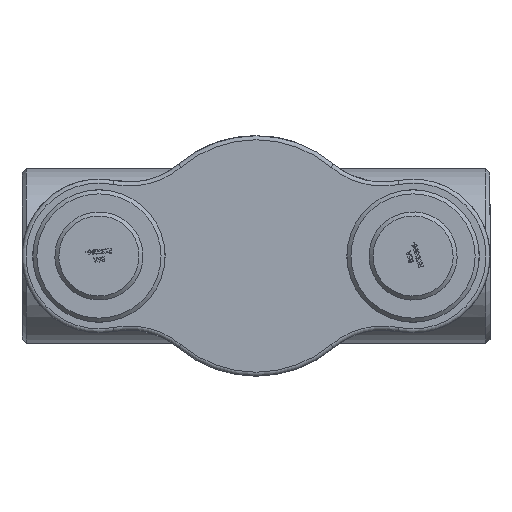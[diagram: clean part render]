
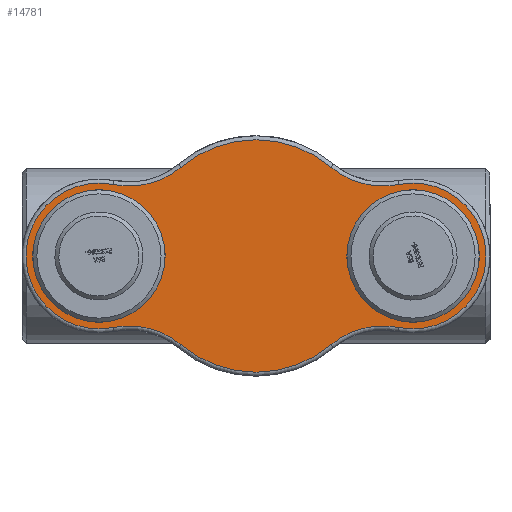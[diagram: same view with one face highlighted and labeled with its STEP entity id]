
A CAD part, front view. The second image highlights one B-rep face of the part: STEP entity #14781.
In plain terms, the highlighted planar face has unit normal (0, -1, 0) as drawn and (0, 0, -1) by its records, which use the part's own axes.
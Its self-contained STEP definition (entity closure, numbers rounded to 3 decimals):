
#3875=PLANE('',#15741);
#4228=FACE_BOUND('',#5207,.T.);
#4229=FACE_BOUND('',#5208,.T.);
#4335=FACE_OUTER_BOUND('',#5206,.T.);
#5206=EDGE_LOOP('',(#10176,#10177,#10178,#10179,#10180,#10181,#10182,#10183));
#5207=EDGE_LOOP('',(#10184));
#5208=EDGE_LOOP('',(#10185));
#6182=CIRCLE('',#15740,62.5);
#6183=CIRCLE('',#15742,91.);
#6184=CIRCLE('',#15743,101.);
#6185=CIRCLE('',#15744,145.);
#6186=CIRCLE('',#15745,101.);
#6187=CIRCLE('',#15746,91.);
#6188=CIRCLE('',#15747,101.);
#6189=CIRCLE('',#15748,145.);
#6190=CIRCLE('',#15749,101.);
#6191=CIRCLE('',#15750,62.5);
#6354=VERTEX_POINT('',#18903);
#6355=VERTEX_POINT('',#18906);
#6356=VERTEX_POINT('',#18907);
#6357=VERTEX_POINT('',#18909);
#6358=VERTEX_POINT('',#18911);
#6359=VERTEX_POINT('',#18913);
#6360=VERTEX_POINT('',#18915);
#6361=VERTEX_POINT('',#18917);
#6362=VERTEX_POINT('',#18919);
#6363=VERTEX_POINT('',#18922);
#7882=EDGE_CURVE('',#6354,#6354,#6182,.T.);
#7883=EDGE_CURVE('',#6355,#6356,#6183,.T.);
#7884=EDGE_CURVE('',#6357,#6355,#6184,.T.);
#7885=EDGE_CURVE('',#6358,#6357,#6185,.T.);
#7886=EDGE_CURVE('',#6359,#6358,#6186,.T.);
#7887=EDGE_CURVE('',#6360,#6359,#6187,.T.);
#7888=EDGE_CURVE('',#6361,#6360,#6188,.T.);
#7889=EDGE_CURVE('',#6362,#6361,#6189,.T.);
#7890=EDGE_CURVE('',#6356,#6362,#6190,.T.);
#7891=EDGE_CURVE('',#6363,#6363,#6191,.T.);
#10176=ORIENTED_EDGE('',*,*,#7883,.F.);
#10177=ORIENTED_EDGE('',*,*,#7884,.F.);
#10178=ORIENTED_EDGE('',*,*,#7885,.F.);
#10179=ORIENTED_EDGE('',*,*,#7886,.F.);
#10180=ORIENTED_EDGE('',*,*,#7887,.F.);
#10181=ORIENTED_EDGE('',*,*,#7888,.F.);
#10182=ORIENTED_EDGE('',*,*,#7889,.F.);
#10183=ORIENTED_EDGE('',*,*,#7890,.F.);
#10184=ORIENTED_EDGE('',*,*,#7891,.F.);
#10185=ORIENTED_EDGE('',*,*,#7882,.F.);
#14781=ADVANCED_FACE('',(#4335,#4228,#4229),#3875,.F.);
#15740=AXIS2_PLACEMENT_3D('',#18904,#16399,#16400);
#15741=AXIS2_PLACEMENT_3D('',#18905,#16401,#16402);
#15742=AXIS2_PLACEMENT_3D('',#18908,#16403,#16404);
#15743=AXIS2_PLACEMENT_3D('',#18910,#16405,#16406);
#15744=AXIS2_PLACEMENT_3D('',#18912,#16407,#16408);
#15745=AXIS2_PLACEMENT_3D('',#18914,#16409,#16410);
#15746=AXIS2_PLACEMENT_3D('',#18916,#16411,#16412);
#15747=AXIS2_PLACEMENT_3D('',#18918,#16413,#16414);
#15748=AXIS2_PLACEMENT_3D('',#18920,#16415,#16416);
#15749=AXIS2_PLACEMENT_3D('',#18921,#16417,#16418);
#15750=AXIS2_PLACEMENT_3D('',#18923,#16419,#16420);
#16399=DIRECTION('center_axis',(0.,0.,-1.));
#16400=DIRECTION('ref_axis',(1.,0.,0.));
#16401=DIRECTION('center_axis',(0.,0.,1.));
#16402=DIRECTION('ref_axis',(1.,0.,0.));
#16403=DIRECTION('center_axis',(0.,0.,1.));
#16404=DIRECTION('ref_axis',(-1.,0.,0.));
#16405=DIRECTION('center_axis',(0.,0.,-1.));
#16406=DIRECTION('ref_axis',(0.248,-0.969,0.));
#16407=DIRECTION('center_axis',(0.,0.,1.));
#16408=DIRECTION('ref_axis',(0.,1.,0.));
#16409=DIRECTION('center_axis',(0.,0.,-1.));
#16410=DIRECTION('ref_axis',(-0.248,-0.969,0.));
#16411=DIRECTION('center_axis',(0.,0.,1.));
#16412=DIRECTION('ref_axis',(1.,0.,0.));
#16413=DIRECTION('center_axis',(0.,0.,-1.));
#16414=DIRECTION('ref_axis',(-0.248,0.969,0.));
#16415=DIRECTION('center_axis',(0.,0.,1.));
#16416=DIRECTION('ref_axis',(0.,-1.,0.));
#16417=DIRECTION('center_axis',(0.,0.,-1.));
#16418=DIRECTION('ref_axis',(0.248,0.969,0.));
#16419=DIRECTION('center_axis',(0.,0.,-1.));
#16420=DIRECTION('ref_axis',(1.,0.,0.));
#18903=CARTESIAN_POINT('',(133.5,0.,0.));
#18904=CARTESIAN_POINT('Origin',(196.,0.,0.));
#18905=CARTESIAN_POINT('Origin',(0.,0.,
0.));
#18906=CARTESIAN_POINT('',(-178.149,89.232,0.));
#18907=CARTESIAN_POINT('',(-178.149,-89.232,0.));
#18908=CARTESIAN_POINT('Origin',(-196.,0.,0.));
#18909=CARTESIAN_POINT('',(-93.329,110.972,0.));
#18910=CARTESIAN_POINT('Origin',(-158.337,188.27,0.));
#18911=CARTESIAN_POINT('',(93.329,110.972,0.));
#18912=CARTESIAN_POINT('Origin',(0.,0.,0.));
#18913=CARTESIAN_POINT('',(178.149,89.232,0.));
#18914=CARTESIAN_POINT('Origin',(158.337,188.27,0.));
#18915=CARTESIAN_POINT('',(178.149,-89.232,0.));
#18916=CARTESIAN_POINT('Origin',(196.,0.,0.));
#18917=CARTESIAN_POINT('',(93.329,-110.972,0.));
#18918=CARTESIAN_POINT('Origin',(158.337,-188.27,0.));
#18919=CARTESIAN_POINT('',(-93.329,-110.972,0.));
#18920=CARTESIAN_POINT('Origin',(0.,0.,0.));
#18921=CARTESIAN_POINT('Origin',(-158.337,-188.27,0.));
#18922=CARTESIAN_POINT('',(-258.5,0.,0.));
#18923=CARTESIAN_POINT('Origin',(-196.,0.,0.));
